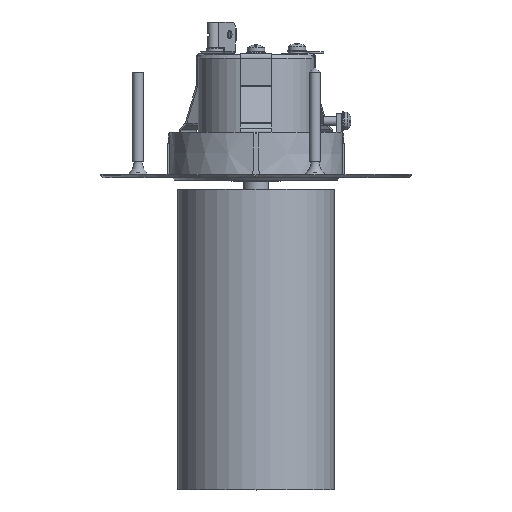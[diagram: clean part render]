
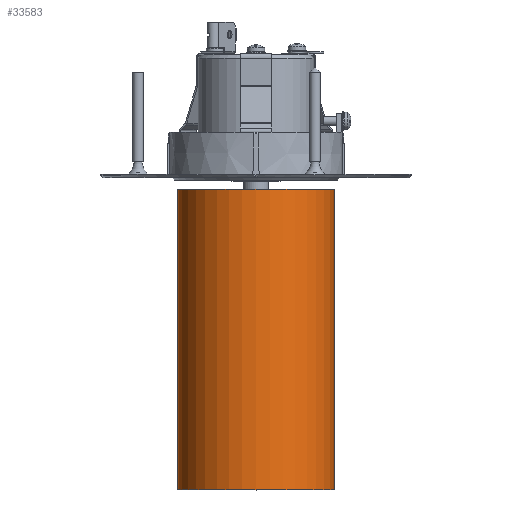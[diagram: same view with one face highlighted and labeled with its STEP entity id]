
A CAD part, top view. The second image highlights one B-rep face of the part: STEP entity #33583.
In plain terms, the highlighted cylindrical face has radius 25 mm (diameter 50 mm), a full revolution.
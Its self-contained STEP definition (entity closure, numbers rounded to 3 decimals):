
#2629=CYLINDRICAL_SURFACE('',#35691,25.);
#3327=LINE('',#64379,#6000);
#6000=VECTOR('',#40091,25.);
#8888=FACE_OUTER_BOUND('',#10718,.T.);
#10718=EDGE_LOOP('',(#24067,#24068,#24069,#24070,#24071,#24072));
#12593=CIRCLE('',#35623,25.);
#12594=CIRCLE('',#35624,25.);
#12630=CIRCLE('',#35684,25.);
#12631=CIRCLE('',#35685,25.);
#14205=VERTEX_POINT('',#64266);
#14206=VERTEX_POINT('',#64267);
#14232=VERTEX_POINT('',#64366);
#14233=VERTEX_POINT('',#64367);
#17817=EDGE_CURVE('',#14205,#14206,#12593,.T.);
#17818=EDGE_CURVE('',#14206,#14205,#12594,.T.);
#17866=EDGE_CURVE('',#14232,#14233,#12630,.T.);
#17867=EDGE_CURVE('',#14233,#14232,#12631,.T.);
#17871=EDGE_CURVE('',#14233,#14206,#3327,.T.);
#24067=ORIENTED_EDGE('',*,*,#17866,.F.);
#24068=ORIENTED_EDGE('',*,*,#17867,.F.);
#24069=ORIENTED_EDGE('',*,*,#17871,.T.);
#24070=ORIENTED_EDGE('',*,*,#17818,.T.);
#24071=ORIENTED_EDGE('',*,*,#17817,.T.);
#24072=ORIENTED_EDGE('',*,*,#17871,.F.);
#33583=ADVANCED_FACE('',(#8888),#2629,.T.);
#35623=AXIS2_PLACEMENT_3D('',#64268,#39940,#39941);
#35624=AXIS2_PLACEMENT_3D('',#64269,#39942,#39943);
#35684=AXIS2_PLACEMENT_3D('',#64368,#40074,#40075);
#35685=AXIS2_PLACEMENT_3D('',#64369,#40076,#40077);
#35691=AXIS2_PLACEMENT_3D('',#64378,#40089,#40090);
#39940=DIRECTION('center_axis',(0.,1.,0.));
#39941=DIRECTION('ref_axis',(1.,0.,0.));
#39942=DIRECTION('center_axis',(0.,1.,0.));
#39943=DIRECTION('ref_axis',(1.,0.,0.));
#40074=DIRECTION('center_axis',(0.,1.,0.));
#40075=DIRECTION('ref_axis',(1.,0.,0.));
#40076=DIRECTION('center_axis',(0.,1.,0.));
#40077=DIRECTION('ref_axis',(1.,0.,0.));
#40089=DIRECTION('center_axis',(0.,1.,0.));
#40090=DIRECTION('ref_axis',(0.,0.,
1.));
#40091=DIRECTION('',(0.,-1.,0.));
#64266=CARTESIAN_POINT('',(0.,-98.5,25.));
#64267=CARTESIAN_POINT('',(0.,-98.5,-25.));
#64268=CARTESIAN_POINT('Origin',(0.,-98.5,
0.));
#64269=CARTESIAN_POINT('Origin',(0.,-98.5,
0.));
#64366=CARTESIAN_POINT('',(0.,-3.,25.));
#64367=CARTESIAN_POINT('',(0.,-3.,-25.));
#64368=CARTESIAN_POINT('Origin',(0.,-3.,
0.));
#64369=CARTESIAN_POINT('Origin',(0.,-3.,
0.));
#64378=CARTESIAN_POINT('Origin',(0.,-50.75,
0.));
#64379=CARTESIAN_POINT('',(0.,-50.75,-25.));
